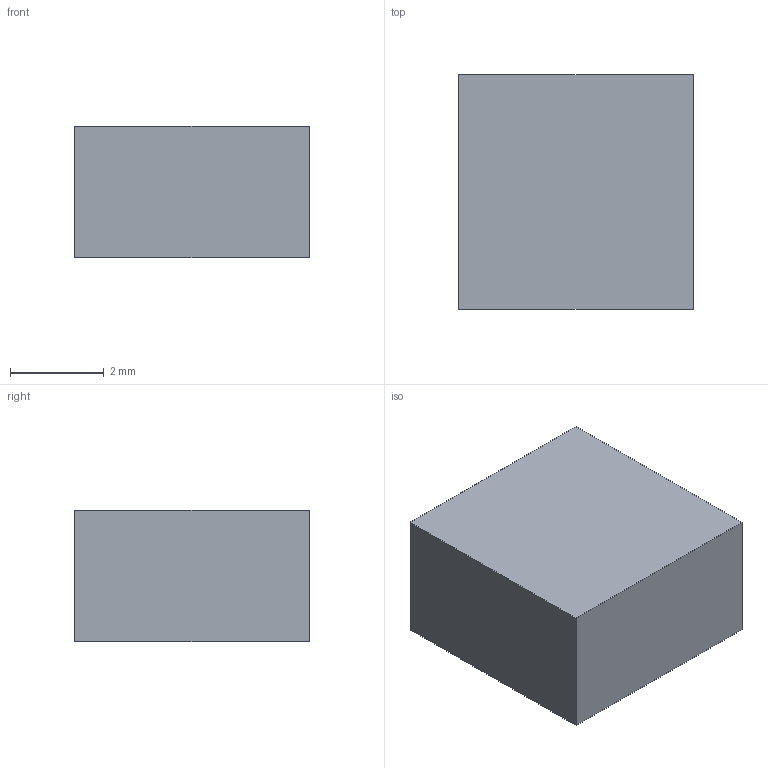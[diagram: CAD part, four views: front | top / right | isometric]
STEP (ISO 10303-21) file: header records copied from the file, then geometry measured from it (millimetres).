
FILE_DESCRIPTION(('Open CASCADE Model'),'2;1');
FILE_NAME('Open CASCADE Shape Model','2026-09-24T05:33:24',('Author'),( 'Open CASCADE'),'Open CASCADE STEP processor 7.8','Open CASCADE 7.8' ,'Unknown');
FILE_SCHEMA(('AUTOMOTIVE_DESIGN { 1 0 10303 214 1 1 1 1 }'));
Length unit declared in the file: millimetre
Products named in the file (1): Open CASCADE STEP translator 7.8 109
Bounding box: 5 x 5 x 2.8 mm (x, y, z)
Volume: 70 mm3; surface area: 106 mm2
Topology: 1 solids, 1 shells, 6 faces, 12 edges, 8 vertices
Faces by surface type: plane 6
Entity records: 322 total; most frequent: CARTESIAN_POINT 51, DIRECTION 50, LINE 36, VECTOR 36, ORIENTED_EDGE 24, PCURVE 24, DEFINITIONAL_REPRESENTATION 24, EDGE_CURVE 12
